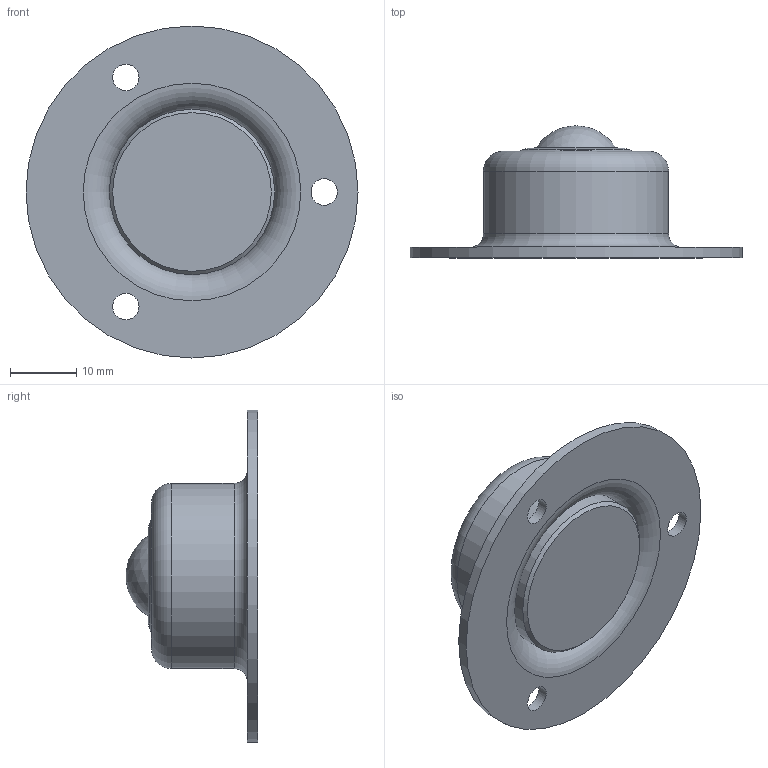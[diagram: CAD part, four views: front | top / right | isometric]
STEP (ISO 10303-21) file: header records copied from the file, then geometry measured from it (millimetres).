
FILE_DESCRIPTION(/* description */ (''),/* implementation_level */ '2;1');
FILE_NAME(/* name */ 'Z:\34-Tei\web 3Dデータ\13-IS型\IS-13.stp',/* time_stamp */ '2015-01-09T10:22:51+09:00',/* author */ ('yamaki'),/* organization */ (''),/* preprocessor_version */ 'ST-DEVELOPER v15.6',/* originating_system */ 'Autodesk Inventor 2015',/* authorisation */ '');
FILE_SCHEMA (('AUTOMOTIVE_DESIGN { 1 0 10303 214 3 1 1 }'));
Length unit declared in the file: millimetre
Products named in the file (4): 0113CP; 0113HT; 1011428; IS-13
Bounding box: 50.2 x 19.95 x 50.2 mm (x, y, z)
Volume: 10982.6 mm3; surface area: 8998.2 mm2
Topology: 3 solids, 3 shells, 33 faces, 65 edges, 41 vertices
Faces by surface type: plane 9, cylinder 9, torus 7, cone 6, sphere 2
Full cylindrical faces by diameter (mm): 4 x3, 17.6 x1, 24.6 x1, 24.9 x1, 25 x1, 28 x1, 50.2 x1
Entity records: 797 total; most frequent: DIRECTION 150, CARTESIAN_POINT 111, AXIS2_PLACEMENT_3D 75, ORIENTED_EDGE 70, EDGE_LOOP 69, FACE_BOUND 36, VERTEX_POINT 36, CIRCLE 35
